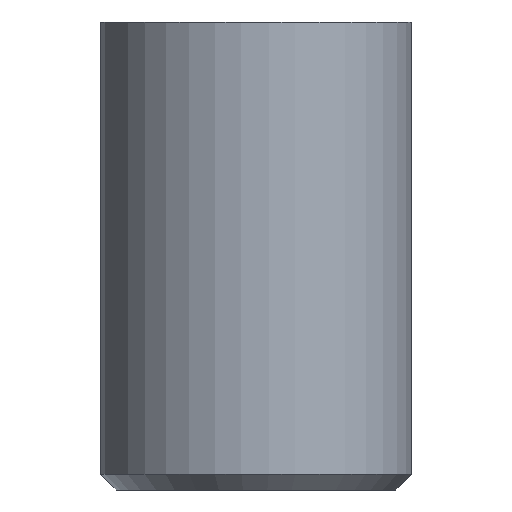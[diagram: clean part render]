
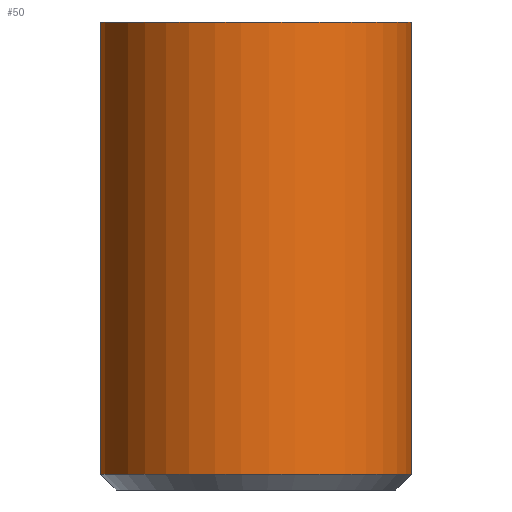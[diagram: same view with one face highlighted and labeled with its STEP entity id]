
A CAD part, front view. The second image highlights one B-rep face of the part: STEP entity #50.
In plain terms, the highlighted cylindrical face has radius 6.35 mm (diameter 12.7 mm), a partial arc.
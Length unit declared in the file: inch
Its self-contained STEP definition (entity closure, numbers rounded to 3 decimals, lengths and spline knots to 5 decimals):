
#1 = VECTOR ( 'NONE', #337, 39.37008 ) ;
#10 = VERTEX_POINT ( 'NONE', #99 ) ;
#33 = FACE_OUTER_BOUND ( 'NONE', #345, .T. ) ;
#50 = ADVANCED_FACE ( 'NONE', ( #33 ), #669, .T. ) ;
#99 = CARTESIAN_POINT ( 'NONE',  ( 0.24891, -0.02334, 0. ) ) ;
#101 = DIRECTION ( 'NONE',  ( 0., 0., 1. ) ) ;
#104 = CARTESIAN_POINT ( 'NONE',  ( -0.24891, 0.02334, -0.725 ) ) ;
#108 = EDGE_CURVE ( 'NONE', #10, #541, #548, .T. ) ;
#125 = CARTESIAN_POINT ( 'NONE',  ( 0.24891, -0.02334, -0.725 ) ) ;
#151 = LINE ( 'NONE', #457, #1 ) ;
#200 = ORIENTED_EDGE ( 'NONE', *, *, #366, .F. ) ;
#201 = CARTESIAN_POINT ( 'NONE',  ( 0., 0., -0.75 ) ) ;
#242 = CIRCLE ( 'NONE', #714, 0.25 ) ;
#262 = EDGE_CURVE ( 'NONE', #693, #281, #242, .T. ) ;
#271 = DIRECTION ( 'NONE',  ( 0.996, -0.093, 0. ) ) ;
#281 = VERTEX_POINT ( 'NONE', #125 ) ;
#300 = EDGE_CURVE ( 'NONE', #281, #10, #151, .T. ) ;
#316 = DIRECTION ( 'NONE',  ( -0.996, 0.093, 0. ) ) ;
#322 = CARTESIAN_POINT ( 'NONE',  ( 0., 0., 0. ) ) ;
#337 = DIRECTION ( 'NONE',  ( 0., 0., 1. ) ) ;
#345 = EDGE_LOOP ( 'NONE', ( #486, #358, #443, #200 ) ) ;
#358 = ORIENTED_EDGE ( 'NONE', *, *, #300, .T. ) ;
#359 = DIRECTION ( 'NONE',  ( 0., 0., 1. ) ) ;
#366 = EDGE_CURVE ( 'NONE', #693, #541, #540, .T. ) ;
#443 = ORIENTED_EDGE ( 'NONE', *, *, #108, .T. ) ;
#447 = DIRECTION ( 'NONE',  ( 0., 0., -1. ) ) ;
#452 = VECTOR ( 'NONE', #359, 39.37008 ) ;
#457 = CARTESIAN_POINT ( 'NONE',  ( 0.24891, -0.02334, -0.75 ) ) ;
#486 = ORIENTED_EDGE ( 'NONE', *, *, #262, .T. ) ;
#509 = DIRECTION ( 'NONE',  ( 0.996, -0.093, 0. ) ) ;
#510 = AXIS2_PLACEMENT_3D ( 'NONE', #322, #447, #271 ) ;
#519 = CARTESIAN_POINT ( 'NONE',  ( -0.24891, 0.02334, -0.75 ) ) ;
#527 = AXIS2_PLACEMENT_3D ( 'NONE', #201, #101, #316 ) ;
#540 = LINE ( 'NONE', #519, #452 ) ;
#541 = VERTEX_POINT ( 'NONE', #596 ) ;
#548 = CIRCLE ( 'NONE', #510, 0.25 ) ;
#596 = CARTESIAN_POINT ( 'NONE',  ( -0.24891, 0.02334, 0. ) ) ;
#628 = CARTESIAN_POINT ( 'NONE',  ( 0., 0., -0.725 ) ) ;
#669 = CYLINDRICAL_SURFACE ( 'NONE', #527, 0.25 ) ;
#687 = DIRECTION ( 'NONE',  ( 0., 0., 1. ) ) ;
#693 = VERTEX_POINT ( 'NONE', #104 ) ;
#714 = AXIS2_PLACEMENT_3D ( 'NONE', #628, #687, #509 ) ;
